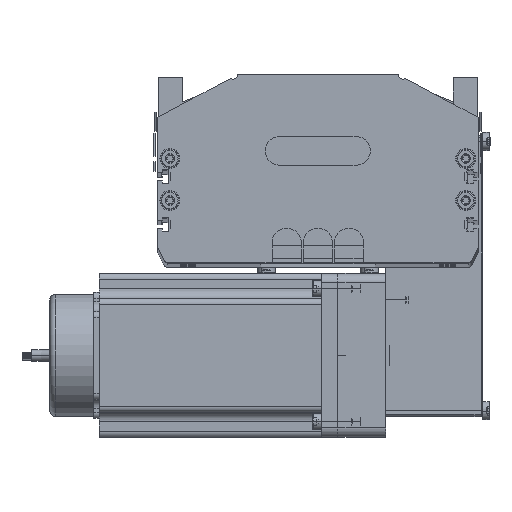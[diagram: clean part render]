
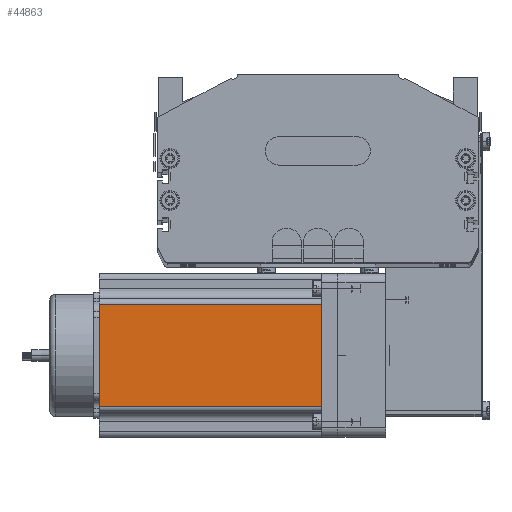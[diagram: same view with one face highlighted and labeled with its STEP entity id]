
A CAD part, top view. The second image highlights one B-rep face of the part: STEP entity #44863.
In plain terms, the highlighted planar face has unit normal (0, 0, 1) as drawn and (0, -1, 0) by its records, which use the part's own axes.
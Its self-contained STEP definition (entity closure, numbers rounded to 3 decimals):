
#44863 = ADVANCED_FACE ( 'NONE', ( #74364 ), #74363, .F. ) ;
#44864 = ORIENTED_EDGE ( 'NONE', *, *, #44865, .T. ) ;
#44865 = EDGE_CURVE ( 'NONE', #44882, #44883, #74304, .T. ) ;
#44866 = EDGE_CURVE ( 'NONE', #44879, #44882, #74349, .T. ) ;
#44867 = ORIENTED_EDGE ( 'NONE', *, *, #44868, .F. ) ;
#44868 = EDGE_CURVE ( 'NONE', #44871, #44883, #74344, .T. ) ;
#44870 = EDGE_CURVE ( 'NONE', #44871, #44879, #74336, .T. ) ;
#44871 = VERTEX_POINT ( 'NONE', #74335 ) ;
#44879 = VERTEX_POINT ( 'NONE', #74369 ) ;
#44880 = EDGE_LOOP ( 'NONE', ( #44892, #44864, #44867, #44930 ) ) ;
#44882 = VERTEX_POINT ( 'NONE', #74341 ) ;
#44883 = VERTEX_POINT ( 'NONE', #74368 ) ;
#44892 = ORIENTED_EDGE ( 'NONE', *, *, #44866, .T. ) ;
#44930 = ORIENTED_EDGE ( 'NONE', *, *, #44870, .T. ) ;
#74303 = CARTESIAN_POINT ( 'NONE',  ( 69.74, 0., 116.5 ) ) ;
#74304 = LINE ( 'NONE', #74303, #74353 ) ;
#74332 = DIRECTION ( 'NONE',  ( 0., 0., -1. ) ) ;
#74333 = VECTOR ( 'NONE', #74332, 1000. ) ;
#74334 = CARTESIAN_POINT ( 'NONE',  ( 16.16, 0., 116.5 ) ) ;
#74335 = CARTESIAN_POINT ( 'NONE',  ( 16.16, 0., 116.5 ) ) ;
#74336 = LINE ( 'NONE', #74334, #74333 ) ;
#74339 = DIRECTION ( 'NONE',  ( 1., 0., 0. ) ) ;
#74340 = VECTOR ( 'NONE', #74339, 1000. ) ;
#74341 = CARTESIAN_POINT ( 'NONE',  ( 69.74, 0., 0. ) ) ;
#74342 = CARTESIAN_POINT ( 'NONE',  ( 0., 0., 116.5 ) ) ;
#74344 = LINE ( 'NONE', #74342, #74340 ) ;
#74345 = DIRECTION ( 'NONE',  ( 1., 0., 0. ) ) ;
#74346 = VECTOR ( 'NONE', #74345, 1000. ) ;
#74347 = CARTESIAN_POINT ( 'NONE',  ( 0., 0., 0. ) ) ;
#74349 = LINE ( 'NONE', #74347, #74346 ) ;
#74352 = DIRECTION ( 'NONE',  ( 0., 0., 1. ) ) ;
#74353 = VECTOR ( 'NONE', #74352, 1000. ) ;
#74355 = DIRECTION ( 'NONE',  ( 0., 0., 1. ) ) ;
#74356 = DIRECTION ( 'NONE',  ( 0., 1., 0. ) ) ;
#74357 = CARTESIAN_POINT ( 'NONE',  ( 0., 0., 116.5 ) ) ;
#74358 = AXIS2_PLACEMENT_3D ( 'NONE', #74357, #74356, #74355 ) ;
#74363 = PLANE ( 'NONE',  #74358 ) ;
#74364 = FACE_OUTER_BOUND ( 'NONE', #44880, .T. ) ;
#74368 = CARTESIAN_POINT ( 'NONE',  ( 69.74, 0., 116.5 ) ) ;
#74369 = CARTESIAN_POINT ( 'NONE',  ( 16.16, 0., 0. ) ) ;
